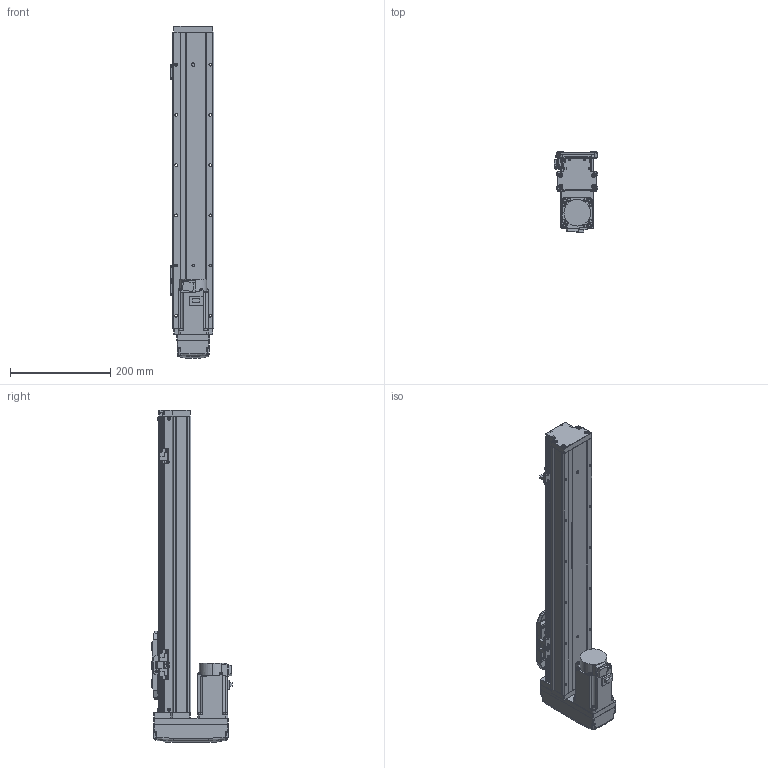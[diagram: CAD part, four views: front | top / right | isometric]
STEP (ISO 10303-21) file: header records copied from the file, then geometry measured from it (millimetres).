
FILE_DESCRIPTION (( 'STEP AP203' ), '1' );
FILE_NAME ('GTH8-400-BM-M20-C4.step', '2022-09-23T01:05:06', ( '微软用户' ), ( '微软中国' ), 'SwSTEP 2.0', 'SolidWorks 2020', '' );
FILE_SCHEMA (( 'CONFIG_CONTROL_DESIGN' ));
Length unit declared in the file: millimetre
Products named in the file (18): GBT 70.3-M3℅6; GBT96.1-2002 3×0.8; GTH80-022; BTH-M3X5X6; GTH80-001_400; GBT 70.1-M3℅6; hg-kn43j_-s100_; GTH80-003; GBT 70.1-M4×16; CTHA86-015-1_CTHA86-015-2; GTH80-004; GTH80-028; CTHA86-033_M40B; GTH80-006; GTH50-024; GTH8-400-BM-M20-C4; GTH80-013; GTH50-023
Assembly tree (57 placements, depth 2):
  GTH8-400-BM-M20-C4
    GTH80-001_400
    GTH80-003
    GTH80-004
    GTH80-006
    GTH80-013
    GBT 70.3-M3℅6  x4
    GTH80-022
    GBT 70.1-M3℅6  x14
    GBT 70.1-M4×16  x8
    GTH80-028  x2
    GTH50-024  x3
    GTH50-023  x3
    GBT96.1-2002 3×0.8  x6
    BTH-M3X5X6  x8
    hg-kn43j_-s100_
    CTHA86-015-1_CTHA86-015-2
    CTHA86-033_M40B
Bounding box: 86.9 x 160.3 x 661 mm (x, y, z)
Volume: 3545844.4 mm3; surface area: 396059.8 mm2
Topology: 59 solids, 59 shells, 2232 faces, 5151 edges, 3155 vertices
Faces by surface type: plane 1187, cylinder 603, cone 260, torus 166, bspline 8, sphere 8
Entity records: 40626 total; most frequent: CARTESIAN_POINT 7145, DIRECTION 6593, ORIENTED_EDGE 6120, EDGE_CURVE 3060, AXIS2_PLACEMENT_3D 2301, LINE 1991, VECTOR 1991, VERTEX_POINT 1930
